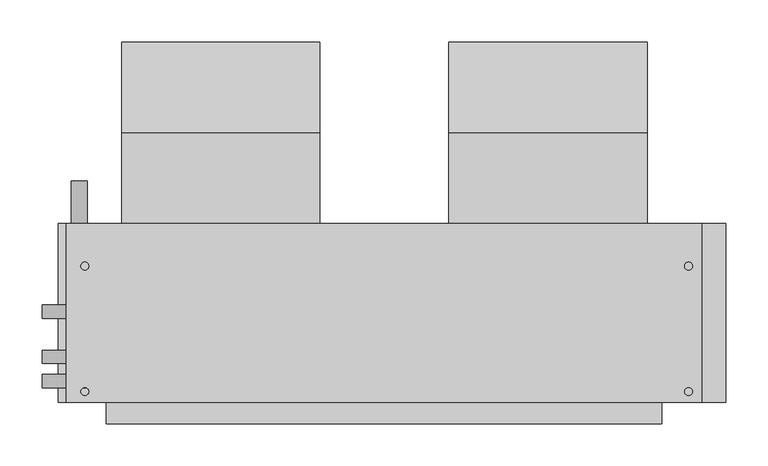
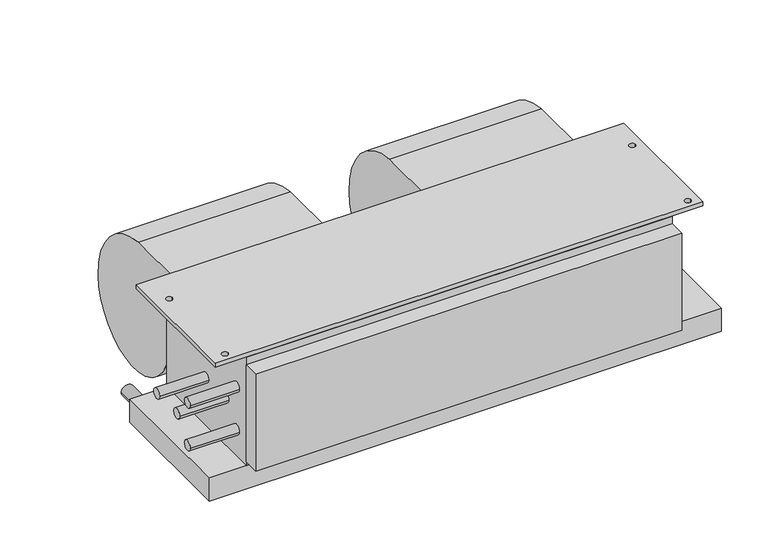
"""IFC4 building model written with IfcOpenShell, lengths in millimetres: proxy geometry, Concealed_Horizontal_Fan_Coil_Unit_-_42CAA_-_CARRIER_-_4-Pipe_LH_2022 : Size 04 - 277v/60Hz/1Ph - 4/1 Coil."""

from ifc_helpers import new_model, si_unit, point, frame, frame_2d, origin, place, context, project, spatial, polyline, circle_curve, trimmed, segment, composite_curve, outline, extrude, source, transform, mapped, element, save


def mechanical_equipment_5b975ff3(model_context):
    return source(origin(), model_context, "Body", "SweptSolid", [
        extrude(outline(composite_curve([segment(trimmed(circle_curve(frame_2d((-33.198831, -136.0299844)), 117.3559541), [point((-23.8125, -19.05))], [point((84.1375, -138.176))], False, "CARTESIAN"), True, "CONTINUOUS"), segment(trimmed(circle_curve(frame_2d((-11.5977337, -136.4250563)), 95.7512443), [point((84.1375, -138.176))], [point((-23.8125, -231.394))], False, "CARTESIAN"), True, "CONTINUOUS"), segment(trimmed(circle_curve(frame_2d((-11.6288131, -136.6666968)), 95.5076133), [point((-23.8125, -231.394))], [point((-107.1245, -138.176))], False, "CARTESIAN"), True, "CONTINUOUS"), segment(trimmed(circle_curve(frame_2d((-126.2059828, -138.4775816)), 19.0838659), [point((-107.1245, -138.176))], [point((-119.3963373, -120.65))], True, "CARTESIAN"), True, "CONTINUOUS"), segment(polyline([(-119.3963373, -120.65), (-131.7625, -120.65), (-131.7625, -19.05), (-23.8125, -19.05)]), True, "CONTINUOUS")], self_intersect=False)), frame((229.4255, 0.0, 0.0), z_axis=(1.0, 0.0, 0.0), x_axis=(0.0, 1.0, 0.0)), (0.0, 0.0, 1.0), 235.712),
        extrude(outline(composite_curve([segment(trimmed(circle_curve(frame_2d((-33.198831, -136.0299844)), 117.3559541), [point((-23.8125, -19.05))], [point((84.1375, -138.176))], False, "CARTESIAN"), True, "CONTINUOUS"), segment(trimmed(circle_curve(frame_2d((-11.5977337, -136.4250563)), 95.7512443), [point((84.1375, -138.176))], [point((-23.8125, -231.394))], False, "CARTESIAN"), True, "CONTINUOUS"), segment(trimmed(circle_curve(frame_2d((-11.6288131, -136.6666968)), 95.5076133), [point((-23.8125, -231.394))], [point((-107.1245, -138.176))], False, "CARTESIAN"), True, "CONTINUOUS"), segment(trimmed(circle_curve(frame_2d((-126.2059828, -138.4775816)), 19.0838659), [point((-107.1245, -138.176))], [point((-119.3963373, -120.65))], True, "CARTESIAN"), True, "CONTINUOUS"), segment(polyline([(-119.3963373, -120.65), (-131.7625, -120.65), (-131.7625, -19.05), (-23.8125, -19.05)]), True, "CONTINUOUS")], self_intersect=False)), frame((-159.512, 0.0, 0.0), z_axis=(1.0, 0.0, 0.0), x_axis=(0.0, 1.0, 0.0)), (0.0, 0.0, 1.0), 235.712),
        extrude(outline(polyline([(530.225, -131.7625), (530.225, -344.4875), (-225.425, -344.4875), (-225.425, -131.7625), (530.225, -131.7625)]), holes=[composite_curve([segment(trimmed(circle_curve(frame_2d((-203.2, -182.5625)), 4.7625), [point((-207.9625, -182.5625))], [point((-198.4375, -182.5625))], True, "CARTESIAN"), True, "CONTINUOUS"), segment(trimmed(circle_curve(frame_2d((-203.2, -182.5625)), 4.7625), [point((-198.4375, -182.5625))], [point((-207.9625, -182.5625))], True, "CARTESIAN"), True, "CONTINUOUS")], self_intersect=False), composite_curve([segment(trimmed(circle_curve(frame_2d((-203.2, -331.7875)), 4.7625), [point((-207.9625, -331.7875))], [point((-198.4375, -331.7875))], True, "CARTESIAN"), True, "CONTINUOUS"), segment(trimmed(circle_curve(frame_2d((-203.2, -331.7875)), 4.7625), [point((-198.4375, -331.7875))], [point((-207.9625, -331.7875))], True, "CARTESIAN"), True, "CONTINUOUS")], self_intersect=False), composite_curve([segment(trimmed(circle_curve(frame_2d((514.35, -182.5625)), 4.7625), [point((509.5875, -182.5625))], [point((519.1125, -182.5625))], True, "CARTESIAN"), True, "CONTINUOUS"), segment(trimmed(circle_curve(frame_2d((514.35, -182.5625)), 4.7625), [point((519.1125, -182.5625))], [point((509.5875, -182.5625))], True, "CARTESIAN"), True, "CONTINUOUS")], self_intersect=False), composite_curve([segment(trimmed(circle_curve(frame_2d((514.35, -331.7875)), 4.7625), [point((509.5875, -331.7875))], [point((519.1125, -331.7875))], True, "CARTESIAN"), True, "CONTINUOUS"), segment(trimmed(circle_curve(frame_2d((514.35, -331.7875)), 4.7625), [point((519.1125, -331.7875))], [point((509.5875, -331.7875))], True, "CARTESIAN"), True, "CONTINUOUS")], self_intersect=False)]), frame((0.0, 0.0, -6.35), z_axis=(0.0, 0.0, 1.0), x_axis=(1.0, 0.0, 0.0)), (0.0, 0.0, 1.0), 6.35),
        extrude(outline(composite_curve([segment(trimmed(circle_curve(frame_2d((-209.55, -209.55)), 9.525), [point((-209.55, -219.075))], [point((-209.55, -200.025))], False, "CARTESIAN"), True, "CONTINUOUS"), segment(trimmed(circle_curve(frame_2d((-209.55, -209.55)), 9.525), [point((-209.55, -200.025))], [point((-209.55, -219.075))], False, "CARTESIAN"), True, "CONTINUOUS")], self_intersect=False)), frame((0.0, -131.7625, 0.0), z_axis=(0.0, 1.0, 0.0), x_axis=(0.0, 0.0, 1.0)), (0.0, 0.0, 1.0), 50.8),
        extrude(outline(polyline([(482.6, -369.8875), (-177.8, -369.8875), (-177.8, -344.4875), (482.6, -344.4875), (482.6, -369.8875)])), frame((0.0, 0.0, -177.8), z_axis=(0.0, 0.0, 1.0), x_axis=(1.0, 0.0, 0.0)), (0.0, 0.0, 1.0), 158.75),
        extrude(outline(polyline([(558.8, -131.7625), (558.8, -344.4875), (-234.95, -344.4875), (-234.95, -131.7625), (558.8, -131.7625)])), frame((0.0, 0.0, -222.25), z_axis=(0.0, 0.0, 1.0), x_axis=(1.0, 0.0, 0.0)), (0.0, 0.0, 1.0), 38.1),
        extrude(outline(composite_curve([segment(trimmed(circle_curve(frame_2d((-236.5375, -104.775)), 7.9375), [point((-228.6, -104.775))], [point((-244.475, -104.775))], False, "CARTESIAN"), True, "CONTINUOUS"), segment(trimmed(circle_curve(frame_2d((-236.5375, -104.775)), 7.9375), [point((-244.475, -104.775))], [point((-228.6, -104.775))], False, "CARTESIAN"), True, "CONTINUOUS")], self_intersect=False)), frame((-254.0, 0.0, 0.0), z_axis=(1.0, 0.0, 0.0), x_axis=(0.0, 1.0, 0.0)), (0.0, 0.0, 1.0), 76.2),
        extrude(outline(composite_curve([segment(trimmed(circle_curve(frame_2d((-290.5125, -104.775)), 7.9375), [point((-282.575, -104.775))], [point((-298.45, -104.775))], False, "CARTESIAN"), True, "CONTINUOUS"), segment(trimmed(circle_curve(frame_2d((-290.5125, -104.775)), 7.9375), [point((-298.45, -104.775))], [point((-282.575, -104.775))], False, "CARTESIAN"), True, "CONTINUOUS")], self_intersect=False)), frame((-254.0, 0.0, 0.0), z_axis=(1.0, 0.0, 0.0), x_axis=(0.0, 1.0, 0.0)), (0.0, 0.0, 1.0), 76.2),
        extrude(outline(composite_curve([segment(trimmed(circle_curve(frame_2d((-319.0875, -69.85)), 7.9375), [point((-311.15, -69.85))], [point((-327.025, -69.85))], False, "CARTESIAN"), True, "CONTINUOUS"), segment(trimmed(circle_curve(frame_2d((-319.0875, -69.85)), 7.9375), [point((-327.025, -69.85))], [point((-311.15, -69.85))], False, "CARTESIAN"), True, "CONTINUOUS")], self_intersect=False)), frame((-254.0, 0.0, 0.0), z_axis=(1.0, 0.0, 0.0), x_axis=(0.0, 1.0, 0.0)), (0.0, 0.0, 1.0), 76.2),
        extrude(outline(composite_curve([segment(trimmed(circle_curve(frame_2d((-319.0875, -139.7)), 7.9375), [point((-311.15, -139.7))], [point((-327.025, -139.7))], False, "CARTESIAN"), True, "CONTINUOUS"), segment(trimmed(circle_curve(frame_2d((-319.0875, -139.7)), 7.9375), [point((-327.025, -139.7))], [point((-311.15, -139.7))], False, "CARTESIAN"), True, "CONTINUOUS")], self_intersect=False)), frame((-254.0, 0.0, 0.0), z_axis=(1.0, 0.0, 0.0), x_axis=(0.0, 1.0, 0.0)), (0.0, 0.0, 1.0), 76.2),
        extrude(outline(polyline([(482.6, -344.4875), (-177.8, -344.4875), (-177.8, -131.7625), (482.6, -131.7625), (482.6, -344.4875)])), frame((0.0, 0.0, -184.15), z_axis=(0.0, 0.0, 1.0), x_axis=(1.0, 0.0, 0.0)), (0.0, 0.0, 1.0), 177.8),
    ])


if __name__ == "__main__":
    model = new_model("IFC4")
    model_context = context("Model", 3, world=origin())
    ifc_project = project(units=[si_unit("LENGTHUNIT", "METRE", prefix="MILLI")], contexts=[model_context])
    site = spatial("IfcSite", under=ifc_project)
    building = spatial("IfcBuilding", under=site)
    placement = place(None, origin())
    mechanical_equipment_shape = mechanical_equipment_5b975ff3(model_context)
    element("IfcBuildingElementProxy", 1, Name="Concealed_Horizontal_Fan_Coil_Unit_-_42CAA_-_CARRIER_-_4-Pipe_LH_2022 : Size 04 - 277v/60Hz/1Ph - 4/1 Coil", ObjectType="Concealed_Horizontal_Fan_Coil_Unit_-_42CAA_-_CARRIER_-_4-Pipe_LH_2022 : Size 04 - 277v/60Hz/1Ph - 4/1 Coil", at=placement, inside=building, context=model_context, shape_type="MappedRepresentation", body=[
        mapped(mechanical_equipment_shape, transform((0.0, 0.0, 0.0), x_axis=(1.0, 0.0, 0.0), y_axis=(0.0, 1.0, 0.0), z_axis=(0.0, 0.0, 1.0))),
    ])
    save(model, "model.ifc")
